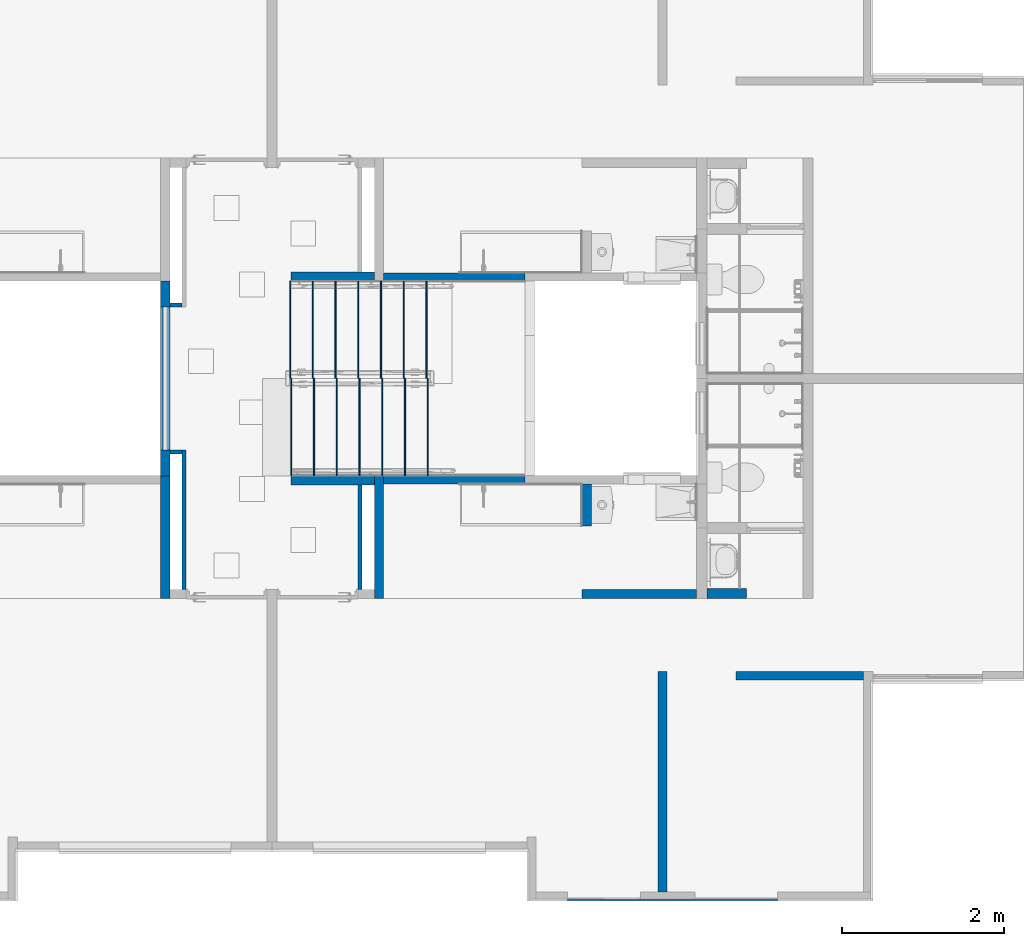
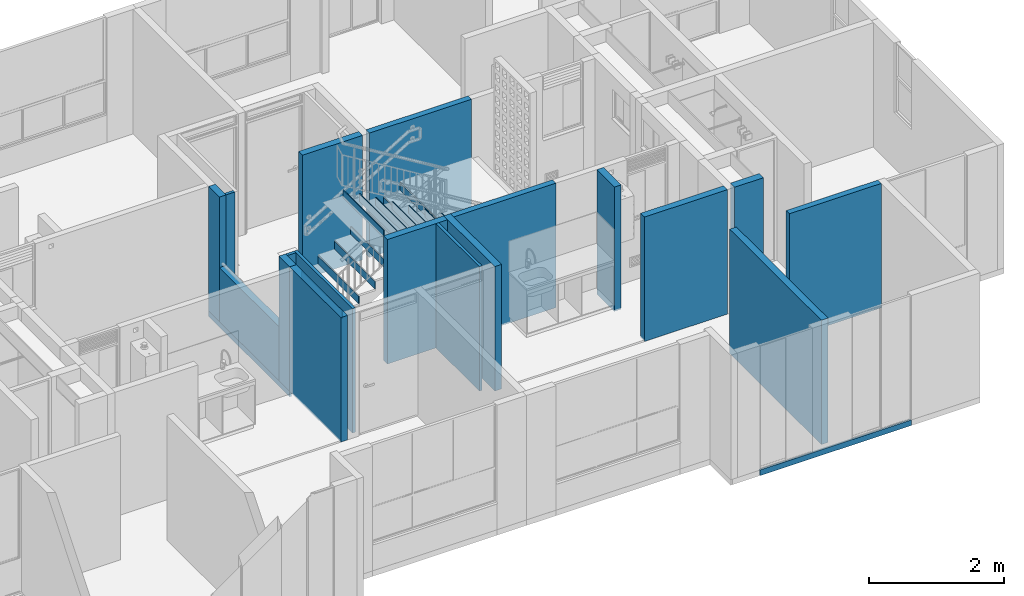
# One storey, part 13 of 48: 34 walls.
"""IFC4 building model written with IfcOpenShell, lengths in metres."""

from ifc_helpers import new_model, entity, si_unit, converted_unit, derived_unit, direction, frame, origin, place, context, subcontext, project, spatial, indexed_curve, outline, extrude, material, constituent, constituent_set, type_object, element, save


model = new_model("IFC4")

# Units and contexts
model_context = context("Model", 3, precision=1e-05, world=origin(), true_north=direction((6.123031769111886e-17, 1.0)))
body_context = subcontext(model_context, "Body", "Model", "MODEL_VIEW")
ifc_project = project(units=[si_unit("LENGTHUNIT", "METRE"), si_unit("AREAUNIT", "SQUARE_METRE"), si_unit("VOLUMEUNIT", "CUBIC_METRE"), converted_unit("PLANEANGLEUNIT", "DEGREE", entity("IfcRatioMeasure", 0.017453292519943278), si_unit("PLANEANGLEUNIT", "RADIAN"), dimensions=[0, 0, 0, 0, 0, 0, 0]), si_unit("MASSUNIT", "GRAM", prefix="KILO"), derived_unit("MASSDENSITYUNIT", [(si_unit("MASSUNIT", "GRAM", prefix="KILO"), 1), (si_unit("LENGTHUNIT", "METRE"), -3)]), derived_unit("IONCONCENTRATIONUNIT", [(si_unit("MASSUNIT", "GRAM", prefix="KILO"), 1), (si_unit("LENGTHUNIT", "METRE"), -3)]), derived_unit("MOMENTOFINERTIAUNIT", [(si_unit("LENGTHUNIT", "METRE"), 4)]), si_unit("TIMEUNIT", "SECOND"), si_unit("FREQUENCYUNIT", "HERTZ"), si_unit("THERMODYNAMICTEMPERATUREUNIT", "DEGREE_CELSIUS"), derived_unit("THERMALTRANSMITTANCEUNIT", [(si_unit("MASSUNIT", "GRAM", prefix="KILO"), 1), (si_unit("THERMODYNAMICTEMPERATUREUNIT", "KELVIN"), -1), (si_unit("TIMEUNIT", "SECOND"), -3)]), derived_unit("THERMALCONDUCTANCEUNIT", [(si_unit("MASSUNIT", "GRAM", prefix="KILO"), 1), (si_unit("THERMODYNAMICTEMPERATUREUNIT", "KELVIN"), -1), (si_unit("TIMEUNIT", "SECOND"), -3), (si_unit("LENGTHUNIT", "METRE"), 1)]), derived_unit("VOLUMETRICFLOWRATEUNIT", [(si_unit("LENGTHUNIT", "METRE"), 3), (si_unit("TIMEUNIT", "SECOND"), -1)]), derived_unit("MASSFLOWRATEUNIT", [(si_unit("MASSUNIT", "GRAM", prefix="KILO"), 1), (si_unit("TIMEUNIT", "SECOND"), -1)]), derived_unit("ROTATIONALFREQUENCYUNIT", [(si_unit("TIMEUNIT", "SECOND"), -1)]), si_unit("ELECTRICCURRENTUNIT", "AMPERE"), si_unit("ELECTRICVOLTAGEUNIT", "VOLT"), si_unit("POWERUNIT", "WATT"), si_unit("FORCEUNIT", "NEWTON", prefix="KILO"), si_unit("ILLUMINANCEUNIT", "LUX"), si_unit("LUMINOUSFLUXUNIT", "LUMEN"), si_unit("LUMINOUSINTENSITYUNIT", "CANDELA"), derived_unit("USERDEFINED", [(si_unit("MASSUNIT", "GRAM", prefix="KILO"), -1), (si_unit("LENGTHUNIT", "METRE"), -2), (si_unit("TIMEUNIT", "SECOND"), 3), (si_unit("LUMINOUSFLUXUNIT", "LUMEN"), 1)]), derived_unit("USERDEFINED", [(si_unit("MASSUNIT", "GRAM", prefix="KILO"), 1), (si_unit("TIMEUNIT", "SECOND"), -3), (si_unit("LENGTHUNIT", "METRE"), 3), (si_unit("ELECTRICCURRENTUNIT", "AMPERE"), -2)]), derived_unit("SOUNDPOWERUNIT", [(si_unit("MASSUNIT", "GRAM", prefix="KILO"), 1), (si_unit("TIMEUNIT", "SECOND"), -3), (si_unit("LENGTHUNIT", "METRE"), 2)]), derived_unit("SOUNDPRESSUREUNIT", [(si_unit("MASSUNIT", "GRAM", prefix="KILO"), 1), (si_unit("LENGTHUNIT", "METRE"), -1), (si_unit("TIMEUNIT", "SECOND"), -2)]), derived_unit("LINEARVELOCITYUNIT", [(si_unit("LENGTHUNIT", "METRE"), 1), (si_unit("TIMEUNIT", "SECOND"), -1)]), si_unit("PRESSUREUNIT", "PASCAL"), derived_unit("USERDEFINED", [(si_unit("MASSUNIT", "GRAM", prefix="KILO"), 1), (si_unit("LENGTHUNIT", "METRE"), -2), (si_unit("TIMEUNIT", "SECOND"), -2)]), derived_unit("LINEARFORCEUNIT", [(si_unit("MASSUNIT", "GRAM", prefix="KILO"), 1), (si_unit("TIMEUNIT", "SECOND"), -2)]), derived_unit("PLANARFORCEUNIT", [(si_unit("MASSUNIT", "GRAM", prefix="KILO"), 1), (si_unit("LENGTHUNIT", "METRE"), -1), (si_unit("TIMEUNIT", "SECOND"), -2)]), derived_unit("SPECIFICHEATCAPACITYUNIT", [(si_unit("THERMODYNAMICTEMPERATUREUNIT", "KELVIN"), -1), (si_unit("LENGTHUNIT", "METRE"), 2), (si_unit("TIMEUNIT", "SECOND"), -2)]), derived_unit("HEATINGVALUEUNIT", [(si_unit("LENGTHUNIT", "METRE"), 2), (si_unit("TIMEUNIT", "SECOND"), -2)]), derived_unit("VAPORPERMEABILITYUNIT", [(si_unit("LENGTHUNIT", "METRE"), -1), (si_unit("TIMEUNIT", "SECOND"), 1)]), derived_unit("DYNAMICVISCOSITYUNIT", [(si_unit("MASSUNIT", "GRAM", prefix="KILO"), 1), (si_unit("TIMEUNIT", "SECOND"), -1), (si_unit("LENGTHUNIT", "METRE"), -1)]), derived_unit("THERMALEXPANSIONCOEFFICIENTUNIT", [(si_unit("THERMODYNAMICTEMPERATUREUNIT", "KELVIN"), -1)]), derived_unit("MODULUSOFELASTICITYUNIT", [(si_unit("MASSUNIT", "GRAM", prefix="KILO"), 1), (si_unit("LENGTHUNIT", "METRE"), -1), (si_unit("TIMEUNIT", "SECOND"), -2)]), derived_unit("ISOTHERMALMOISTURECAPACITYUNIT", [(si_unit("LENGTHUNIT", "METRE"), 3), (si_unit("MASSUNIT", "GRAM", prefix="KILO"), -1)]), derived_unit("MOISTUREDIFFUSIVITYUNIT", [(si_unit("TIMEUNIT", "SECOND"), -1), (si_unit("LENGTHUNIT", "METRE"), 2)])], contexts=[model_context])

# Site, building, storey
site_placement = place(None, origin())
site = spatial("IfcSite", under=ifc_project, at=site_placement, Name="Default", CompositionType="ELEMENT")
building_placement = place(site_placement, origin())
building = spatial("IfcBuilding", under=site, at=building_placement, CompositionType="ELEMENT")
storey_placement = place(building_placement, frame((0.0, 0.0, 7.050000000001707)))
storey = spatial("IfcBuildingStorey", under=building, at=storey_placement, Name="Nivel 4", CompositionType="ELEMENT", Elevation=7.050000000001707)

# Walls
ifc_material_1 = material(Name="Ladrillo claro (Aire)", Category="Materials")
wall_type_1 = type_object("IfcWallType", Name="Basic Wall:B2010 - 0.115m - Muro interior en mampostería - Ladrillo", PredefinedType="STANDARD")
wall_1_placement = place(storey_placement, frame((14.135000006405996, -12.75500003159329, 0.0), z_axis=(0.0, 0.0, 1.0), x_axis=(0.0, 1.0, 0.0)))
element("IfcWall", 1, at=wall_1_placement, inside=storey, type_object=wall_type_1, material=ifc_material_1, Name="Basic Wall:B2010 - 0.115m - Muro interior en mampostería - Ladrillo", ObjectType="Basic Wall:B2010 - 0.115m - Muro interior en mampostería - Ladrillo", PredefinedType="NOTDEFINED", context=body_context, shape_type="SweptSolid", body=[
    extrude(outline(indexed_curve([(2.715000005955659, 0.05750000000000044), (8.08167206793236e-17, 0.057499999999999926), (-8.08167206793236e-17, -0.057499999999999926), (2.715000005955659, -0.057499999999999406), (2.715000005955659, 0.05750000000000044)], self_intersect=False)), origin(), (0.0, 0.0, 1.0), 2.2499999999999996),
])
wall_2_placement = place(storey_placement, frame((14.557500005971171, -9.082499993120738, 0.0), z_axis=(0.0, 0.0, 1.0), x_axis=(-1.0, 0.0, 0.0)))
element("IfcWall", 2, at=wall_2_placement, inside=storey, type_object=wall_type_1, material=ifc_material_1, Name="Basic Wall:B2010 - 0.115m - Muro interior en mampostería - Ladrillo", ObjectType="Basic Wall:B2010 - 0.115m - Muro interior en mampostería - Ladrillo", PredefinedType="NOTDEFINED", context=body_context, shape_type="SweptSolid", body=[
    extrude(outline(indexed_curve([(1.4149999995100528, 0.05750000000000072), (-5.604877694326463e-16, 0.057499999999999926), (5.604877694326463e-16, -0.057499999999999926), (1.414999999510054, -0.05749999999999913), (1.4149999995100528, 0.05750000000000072)], self_intersect=False)), origin(), (0.0, 0.0, 1.0), 2.2499999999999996),
])
wall_3_placement = place(storey_placement, frame((10.639999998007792, -7.625000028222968, 0.0), z_axis=(0.0, 0.0, 1.0), x_axis=(0.0, -1.0, 0.0)))
element("IfcWall", 3, at=wall_3_placement, inside=storey, type_object=wall_type_1, material=ifc_material_1, Name="Basic Wall:B2010 - 0.115m - Muro interior en mampostería - Ladrillo", ObjectType="Basic Wall:B2010 - 0.115m - Muro interior en mampostería - Ladrillo", PredefinedType="NOTDEFINED", context=body_context, shape_type="SweptSolid", body=[
    extrude(outline(indexed_curve([(1.5150000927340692, 0.05750000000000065), (-2.7419363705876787e-16, 0.057499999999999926), (2.7419363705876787e-16, -0.057499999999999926), (1.5150000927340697, -0.0574999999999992), (1.5150000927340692, 0.05750000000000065)], self_intersect=False)), origin(), (0.0, 0.0, 1.0), 2.2499999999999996),
])
wall_4_placement = place(storey_placement, frame((8.00500000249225, -7.6250000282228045, 0.0), z_axis=(0.0, 0.0, 1.0), x_axis=(0.0, -1.0, 0.0)))
element("IfcWall", 4, at=wall_4_placement, inside=storey, type_object=wall_type_1, material=ifc_material_1, Name="Basic Wall:B2010 - 0.115m - Muro interior en mampostería - Ladrillo", ObjectType="Basic Wall:B2010 - 0.115m - Muro interior en mampostería - Ladrillo", PredefinedType="NOTDEFINED", context=body_context, shape_type="SweptSolid", body=[
    extrude(outline(indexed_curve([(1.5150000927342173, 0.05750000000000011), (-4.5913366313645e-16, 0.057499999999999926), (4.5913366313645e-16, -0.057499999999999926), (1.5150000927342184, -0.05749999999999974), (1.5150000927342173, 0.05750000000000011)], self_intersect=False)), origin(), (0.0, 0.0, 1.0), 2.250000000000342),
])
ifc_material_2 = material(Name="Concreto (Aire)", Category="Materials")
wall_type_2 = type_object("IfcWallType", Name="Basic Wall:B2010 - 0.10m - Muro interior en concreto", PredefinedType="STANDARD")
wall_5_placement = place(storey_placement, frame((16.612500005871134, -10.090000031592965, 0.0), z_axis=(0.0, 0.0, 1.0), x_axis=(-1.0, 0.0, 0.0)))
element("IfcWall", 5, at=wall_5_placement, inside=storey, type_object=wall_type_2, material=ifc_material_2, Name="Basic Wall:B2010 - 0.10m - Muro interior en concreto", ObjectType="Basic Wall:B2010 - 0.10m - Muro interior en concreto", PredefinedType="NOTDEFINED", context=body_context, shape_type="SweptSolid", body=[
    extrude(outline(indexed_curve([(1.5699999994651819, 0.04999999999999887), (7.775903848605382e-16, 0.04999999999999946), (-7.775903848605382e-16, -0.04999999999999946), (1.5699999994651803, -0.05000000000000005), (1.5699999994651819, 0.04999999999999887)], self_intersect=False)), origin(), (0.0, 0.0, 1.0), 2.2499999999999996),
])
ifc_material_3 = material(Name="Pañete", Category="Materials")
ifc_constituent_1 = constituent(ifc_material_3, Name="Pañete", Category="Materials")
ifc_constituent_2 = constituent(ifc_material_1, Name="Ladrillo claro (Aire)", Category="Materials")
ifc_constituent_set_1 = constituent_set(constituents=[ifc_constituent_1, ifc_constituent_2], Name="Basic Wall:B2010 - 0.115m - Muro interior en mampostería - Ladrillo + Pañete")
wall_type_3 = type_object("IfcWallType", Name="Basic Wall:B2010 - 0.115m - Muro interior en mampostería - Ladrillo + Pañete", PredefinedType="STANDARD", material=ifc_constituent_set_1)
wall_6_placement = place(storey_placement, frame((15.172500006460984, -9.07749999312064, 0.0), z_axis=(0.0, 0.0, 1.0), x_axis=(-1.0, 0.0, 0.0)))
element("IfcWall", 6, at=wall_6_placement, inside=storey, type_object=wall_type_3, material=ifc_constituent_set_1, Name="Basic Wall:B2010 - 0.115m - Muro interior en mampostería - Ladrillo + Pañete", ObjectType="Basic Wall:B2010 - 0.115m - Muro interior en mampostería - Ladrillo + Pañete", PredefinedType="NOTDEFINED", context=body_context, shape_type="SweptSolid", body=[
    extrude(outline(indexed_curve([(-0.005000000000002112, -0.24500000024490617), (0.0049999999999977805, -0.24500000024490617), (0.005000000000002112, 0.24500000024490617), (-0.0049999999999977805, 0.24500000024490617), (-0.005000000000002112, -0.24500000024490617)], self_intersect=False)), frame((0.24500000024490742, -0.057499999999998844, 0.0), z_axis=(0.0, 0.0, 1.0), x_axis=(0.0, 1.0, 0.0)), (0.0, 0.0, 1.0), 2.2500000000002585),
    extrude(outline(indexed_curve([(-0.05749999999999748, -0.24500000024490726), (0.05750000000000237, -0.24500000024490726), (0.05749999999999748, 0.2450000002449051), (-0.05750000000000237, 0.24500000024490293), (-0.05749999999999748, -0.24500000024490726)], self_intersect=False)), frame((0.245000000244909, 0.005000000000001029, 0.0), z_axis=(0.0, 0.0, 1.0), x_axis=(0.0, -1.0, 0.0)), (0.0, 0.0, 1.0), 2.2500000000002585),
])
ifc_material_4 = material(Name="LADRILLO CLARO", Category="Materials")
wall_type_4 = type_object("IfcWallType", Name="Basic Wall:B2010 - 0.115m - MI mampostería no estructural - Ladrillo", PredefinedType="STANDARD")
wall_7_placement = place(storey_placement, frame((8.005000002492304, -5.545000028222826, 0.0), z_axis=(0.0, 0.0, 1.0), x_axis=(0.0, -1.0, 0.0)))
element("IfcWall", 7, at=wall_7_placement, inside=storey, type_object=wall_type_4, material=ifc_material_4, Name="Basic Wall:B2010 - 0.115m - MI mampostería no estructural - Ladrillo", ObjectType="Basic Wall:B2010 - 0.115m - MI mampostería no estructural - Ladrillo", PredefinedType="NOTDEFINED", context=body_context, shape_type="SweptSolid", body=[
    extrude(outline(indexed_curve([(1.7599999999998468, 0.05750000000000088), (-1.0186480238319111e-16, 0.057499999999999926), (1.0186480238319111e-16, -0.057499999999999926), (1.7599999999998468, -0.05749999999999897), (1.7599999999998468, 0.05750000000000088)], self_intersect=False)), origin(), (0.0, 0.0, 1.0), 0.9749999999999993),
])
wall_8_placement = place(storey_placement, frame((13.200000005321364, -8.245000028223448, 0.0), z_axis=(0.0, 0.0, 1.0), x_axis=(0.0, 1.0, 0.0)))
element("IfcWall", 8, at=wall_8_placement, inside=storey, type_object=wall_type_4, material=ifc_material_4, Name="Basic Wall:B2010 - 0.115m - MI mampostería no estructural - Ladrillo", ObjectType="Basic Wall:B2010 - 0.115m - MI mampostería no estructural - Ladrillo", PredefinedType="NOTDEFINED", context=body_context, shape_type="SweptSolid", body=[
    extrude(outline(indexed_curve([(0.5195000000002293, 0.057499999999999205), (-1.6027407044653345e-16, 0.057499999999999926), (1.6027407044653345e-16, -0.057499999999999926), (0.5195000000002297, -0.05750000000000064), (0.5195000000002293, 0.057499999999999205)], self_intersect=False)), origin(), (0.0, 0.0, 1.0), 2.2500000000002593),
])
wall_9_placement = place(storey_placement, frame((8.00500000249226, -5.545000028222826, 0.0), z_axis=(0.0, 0.0, 1.0), x_axis=(0.0, 1.0, 0.0)))
element("IfcWall", 9, at=wall_9_placement, inside=storey, type_object=wall_type_4, material=ifc_material_4, Name="Basic Wall:B2010 - 0.115m - MI mampostería no estructural - Ladrillo", ObjectType="Basic Wall:B2010 - 0.115m - MI mampostería no estructural - Ladrillo", PredefinedType="NOTDEFINED", context=body_context, shape_type="SweptSolid", body=[
    extrude(outline(indexed_curve([(0.3200000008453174, 0.05750000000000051), (9.033989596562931e-17, 0.057499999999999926), (-9.033989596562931e-17, -0.057499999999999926), (0.3200000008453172, -0.057499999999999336), (0.3200000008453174, 0.05750000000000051)], self_intersect=False)), origin(), (0.0, 0.0, 1.0), 2.250000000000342),
])
wall_10_placement = place(storey_placement, frame((8.005000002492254, -7.305000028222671, 0.0), z_axis=(0.0, 0.0, 1.0), x_axis=(0.0, -1.0, 0.0)))
element("IfcWall", 10, at=wall_10_placement, inside=storey, type_object=wall_type_4, material=ifc_material_4, Name="Basic Wall:B2010 - 0.115m - MI mampostería no estructural - Ladrillo", ObjectType="Basic Wall:B2010 - 0.115m - MI mampostería no estructural - Ladrillo", PredefinedType="NOTDEFINED", context=body_context, shape_type="SweptSolid", body=[
    extrude(outline(indexed_curve([(0.3200000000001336, 0.05749999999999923), (-4.5913366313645e-16, 0.057499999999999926), (4.5913366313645e-16, -0.057499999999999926), (0.32000000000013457, -0.05750000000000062), (0.3200000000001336, 0.05749999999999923)], self_intersect=False)), origin(), (0.0, 0.0, 1.0), 2.250000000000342),
])
ifc_material_5 = material(Name="0 muro divisorio", Category="Materials")
wall_type_5 = type_object("IfcWallType", Name="Basic Wall:B2010 - 0.05m - MI No estructural- Concreto", PredefinedType="STANDARD")
wall_11_placement = place(storey_placement, frame((8.212500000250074, -5.520000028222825, 0.0), z_axis=(0.0, 0.0, 1.0), x_axis=(-1.0, 0.0, 0.0)))
element("IfcWall", 11, at=wall_11_placement, inside=storey, type_object=wall_type_5, material=ifc_material_5, Name="Basic Wall:B2010 - 0.05m - MI No estructural- Concreto", ObjectType="Basic Wall:B2010 - 0.05m - MI No estructural- Concreto", PredefinedType="NOTDEFINED", context=body_context, shape_type="SweptSolid", body=[
    extrude(outline(indexed_curve([(0.14999999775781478, 0.02499999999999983), (-1.6892508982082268e-17, 0.02499999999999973), (1.6892508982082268e-17, -0.02499999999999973), (0.1499999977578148, -0.02499999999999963), (0.14999999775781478, 0.02499999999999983)], self_intersect=False)), origin(), (0.0, 0.0, 1.0), 2.2499999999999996),
])
wall_12_placement = place(storey_placement, frame((8.237500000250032, -7.305000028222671, 0.0), z_axis=(0.0, 0.0, 1.0), x_axis=(0.0, -1.0, 0.0)))
element("IfcWall", 12, at=wall_12_placement, inside=storey, type_object=wall_type_5, material=ifc_material_5, Name="Basic Wall:B2010 - 0.05m - MI No estructural- Concreto", ObjectType="Basic Wall:B2010 - 0.05m - MI No estructural- Concreto", PredefinedType="NOTDEFINED", context=body_context, shape_type="SweptSolid", body=[
    extrude(outline(indexed_curve([(1.719999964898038, 0.02499999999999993), (-3.4343744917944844e-17, 0.02499999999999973), (3.4343744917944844e-17, -0.02499999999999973), (1.719999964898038, -0.024999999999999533), (1.719999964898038, 0.02499999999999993)], self_intersect=False)), origin(), (0.0, 0.0, 1.0), 2.2499999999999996),
])
wall_13_placement = place(storey_placement, frame((8.212500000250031, -7.330000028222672, 0.0), z_axis=(0.0, 0.0, 1.0), x_axis=(-1.0, 0.0, 0.0)))
element("IfcWall", 13, at=wall_13_placement, inside=storey, type_object=wall_type_5, material=ifc_material_5, Name="Basic Wall:B2010 - 0.05m - MI No estructural- Concreto", ObjectType="Basic Wall:B2010 - 0.05m - MI No estructural- Concreto", PredefinedType="NOTDEFINED", context=body_context, shape_type="SweptSolid", body=[
    extrude(outline(indexed_curve([(0.14999999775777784, 0.02499999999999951), (-1.4345260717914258e-16, 0.02499999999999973), (1.4345260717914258e-16, -0.02499999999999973), (0.14999999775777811, -0.024999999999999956), (0.14999999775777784, 0.02499999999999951)], self_intersect=False)), origin(), (0.0, 0.0, 1.0), 2.2499999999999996),
])
wall_14_placement = place(storey_placement, frame((10.407500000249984, -7.740000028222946, 0.0), z_axis=(0.0, 0.0, 1.0), x_axis=(0.0, -1.0, 0.0)))
element("IfcWall", 14, at=wall_14_placement, inside=storey, type_object=wall_type_5, material=ifc_material_5, Name="Basic Wall:B2010 - 0.05m - MI No estructural- Concreto", ObjectType="Basic Wall:B2010 - 0.05m - MI No estructural- Concreto", PredefinedType="NOTDEFINED", context=body_context, shape_type="SweptSolid", body=[
    extrude(outline(indexed_curve([(1.2849999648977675, 0.025000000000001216), (3.434374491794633e-17, 0.025000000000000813), (-3.434374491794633e-17, -0.025000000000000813), (1.2849999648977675, -0.02500000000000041), (1.2849999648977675, 0.025000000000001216)], self_intersect=False)), origin(), (0.0, 0.0, 1.0), 2.2499999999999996),
])
wall_type_6 = type_object("IfcWallType", Name="Basic Wall:B2010 - 0.03m - ME enchape  no estructural - Ladrillo", PredefinedType="STANDARD")
wall_15_placement = place(storey_placement, frame((7.962500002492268, -5.225000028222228, -0.1000000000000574), z_axis=(0.0, 0.0, 1.0), x_axis=(0.0, -1.0, 0.0)))
element("IfcWall", 15, at=wall_15_placement, inside=storey, type_object=wall_type_6, material=ifc_material_4, Name="Basic Wall:B2010 - 0.03m - ME enchape  no estructural - Ladrillo", ObjectType="Basic Wall:B2010 - 0.03m - ME enchape  no estructural - Ladrillo", PredefinedType="NOTDEFINED", context=body_context, shape_type="SweptSolid", body=[
    extrude(outline(indexed_curve([(2.4000000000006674, 0.014999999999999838), (-2.7071678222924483e-17, 0.014999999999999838), (2.7071678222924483e-17, -0.014999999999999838), (2.4000000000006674, -0.014999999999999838), (2.4000000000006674, 0.014999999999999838)], self_intersect=False)), origin(), (0.0, 0.0, 1.0), 0.09999999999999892),
])
wall_16_placement = place(storey_placement, frame((12.962500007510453, -12.855000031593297, -0.10000000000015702)))
element("IfcWall", 16, at=wall_16_placement, inside=storey, type_object=wall_type_6, material=ifc_material_4, Name="Basic Wall:B2010 - 0.03m - ME enchape  no estructural - Ladrillo", ObjectType="Basic Wall:B2010 - 0.03m - ME enchape  no estructural - Ladrillo", PredefinedType="NOTDEFINED", context=body_context, shape_type="SweptSolid", body=[
    extrude(outline(indexed_curve([(2.5899999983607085, 0.015000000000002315), (-4.570130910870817e-17, 0.015000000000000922), (4.570130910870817e-17, -0.015000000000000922), (2.5899999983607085, -0.014999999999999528), (2.5899999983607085, 0.015000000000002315)], self_intersect=False)), origin(), (0.0, 0.0, 1.0), 0.09999999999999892),
])
ifc_material_6 = material(Name="Pintura blanca", Category="Materials")
ifc_constituent_3 = constituent(ifc_material_6, Name="Pintura blanca", Category="Materials")
ifc_constituent_4 = constituent(ifc_material_2, Name="Concreto (Aire)", Category="Materials")
ifc_constituent_set_2 = constituent_set(constituents=[ifc_constituent_3, ifc_constituent_4], Name="Basic Wall:B2010 - 0.10m - MI Concreto- Concreto+ Pintura")
wall_type_7 = type_object("IfcWallType", Name="Basic Wall:B2010 - 0.10m - MI Concreto- Concreto+ Pintura", PredefinedType="STANDARD", material=ifc_constituent_set_2)
wall_17_placement = place(storey_placement, frame((10.6974999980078, -5.175000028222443, 0.0)))
element("IfcWall", 17, at=wall_17_placement, inside=storey, type_object=wall_type_7, material=ifc_constituent_set_2, Name="Basic Wall:B2010 - 0.10m - MI Concreto- Concreto+ Pintura", ObjectType="Basic Wall:B2010 - 0.10m - MI Concreto- Concreto+ Pintura", PredefinedType="NOTDEFINED", context=body_context, shape_type="SweptSolid", body=[
    extrude(outline(indexed_curve([(-0.000500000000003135, -0.8725000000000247), (0.0004999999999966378, -0.8725000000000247), (0.0005000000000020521, 0.8725000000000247), (-0.0004999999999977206, 0.8725000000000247), (-0.000500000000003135, -0.8725000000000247)], self_intersect=False)), frame((0.8725000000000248, -0.04999999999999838, 0.0), z_axis=(0.0, 0.0, 1.0), x_axis=(0.0, 1.0, 0.0)), (0.0, 0.0, 1.0), 2.250000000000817),
    extrude(outline(indexed_curve([(-0.05000000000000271, -0.8725000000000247), (0.0499999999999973, -0.8725000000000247), (0.05000000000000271, 0.8725000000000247), (-0.0499999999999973, 0.8725000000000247), (-0.05000000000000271, -0.8725000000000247)], self_intersect=False)), frame((0.8725000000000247, 0.0005000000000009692, 0.0), z_axis=(0.0, 0.0, 1.0), x_axis=(0.0, -1.0, 0.0)), (0.0, 0.0, 1.0), 2.250000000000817),
])
wall_18_placement = place(storey_placement, frame((10.69749999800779, -7.675000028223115, 0.0)))
element("IfcWall", 18, at=wall_18_placement, inside=storey, type_object=wall_type_7, material=ifc_constituent_set_2, Name="Basic Wall:B2010 - 0.10m - MI Concreto- Concreto+ Pintura", ObjectType="Basic Wall:B2010 - 0.10m - MI Concreto- Concreto+ Pintura", PredefinedType="NOTDEFINED", context=body_context, shape_type="SweptSolid", body=[
    extrude(outline(indexed_curve([(-0.000500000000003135, -0.8725000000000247), (0.0004999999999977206, -0.8725000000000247), (0.000500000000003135, 0.8725000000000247), (-0.0004999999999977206, 0.8725000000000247), (-0.000500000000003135, -0.8725000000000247)], self_intersect=False)), frame((0.8725000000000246, 0.04999999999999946, 0.0), z_axis=(0.0, 0.0, 1.0), x_axis=(0.0, -1.0, 0.0)), (0.0, 0.0, 1.0), 2.250000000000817),
    extrude(outline(indexed_curve([(-0.05000000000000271, -0.8725000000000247), (0.049999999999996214, -0.8725000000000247), (0.050000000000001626, 0.8725000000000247), (-0.0499999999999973, 0.8725000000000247), (-0.05000000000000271, -0.8725000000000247)], self_intersect=False)), frame((0.8725000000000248, -0.0004999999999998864, 0.0), z_axis=(0.0, 0.0, 1.0), x_axis=(0.0, 1.0, 0.0)), (0.0, 0.0, 1.0), 2.250000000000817),
])
ifc_material_7 = material(Name="PISO GRES SAHARA 30X30", Category="Materials")
wall_type_8 = type_object("IfcWallType", Name="Basic Wall:B2010 - 0.015-Enchape- Gres", PredefinedType="STANDARD")
wall_19_placement = place(storey_placement, frame((9.545000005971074, -5.225000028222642, 0.029999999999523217), z_axis=(0.0, 0.0, 1.0), x_axis=(0.0, -1.0, 0.0)))
element("IfcWall", 19, at=wall_19_placement, inside=storey, type_object=wall_type_8, material=ifc_material_7, Name="Basic Wall:B2010 - 0.015-Enchape- Gres", ObjectType="Basic Wall:B2010 - 0.015-Enchape- Gres", PredefinedType="NOTDEFINED", context=body_context, shape_type="SweptSolid", body=[
    extrude(outline(indexed_curve([(1.1999999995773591, 0.007500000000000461), (-1.3535839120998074e-17, 0.007500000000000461), (1.3535839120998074e-17, -0.007500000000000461), (1.1999999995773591, -0.007500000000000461), (1.1999999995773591, 0.007500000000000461)], self_intersect=False)), origin(), (0.0, 0.0, 1.0), 0.137857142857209),
])
wall_20_placement = place(storey_placement, frame((9.825000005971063, -5.22500002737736, 0.19785714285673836), z_axis=(0.0, 0.0, 1.0), x_axis=(0.0, -1.0, 0.0)))
element("IfcWall", 20, at=wall_20_placement, inside=storey, type_object=wall_type_8, material=ifc_material_7, Name="Basic Wall:B2010 - 0.015-Enchape- Gres", ObjectType="Basic Wall:B2010 - 0.015-Enchape- Gres", PredefinedType="NOTDEFINED", context=body_context, shape_type="SweptSolid", body=[
    extrude(outline(indexed_curve([(1.200000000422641, 0.007500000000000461), (0.0, 0.007500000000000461), (0.0, -0.007500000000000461), (1.200000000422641, -0.007500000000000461), (1.200000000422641, 0.007500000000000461)], self_intersect=False)), origin(), (0.0, 0.0, 1.0), 0.13785714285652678),
])
wall_21_placement = place(storey_placement, frame((10.10500000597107, -5.22500002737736, 0.36571428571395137), z_axis=(0.0, 0.0, 1.0), x_axis=(0.0, -1.0, 0.0)))
element("IfcWall", 21, at=wall_21_placement, inside=storey, type_object=wall_type_8, material=ifc_material_7, Name="Basic Wall:B2010 - 0.015-Enchape- Gres", ObjectType="Basic Wall:B2010 - 0.015-Enchape- Gres", PredefinedType="NOTDEFINED", context=body_context, shape_type="SweptSolid", body=[
    extrude(outline(indexed_curve([(1.200000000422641, 0.007500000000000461), (0.0, 0.007500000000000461), (0.0, -0.007500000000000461), (1.200000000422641, -0.007500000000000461), (1.200000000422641, 0.007500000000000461)], self_intersect=False)), origin(), (0.0, 0.0, 1.0), 0.13785714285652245),
])
wall_22_placement = place(storey_placement, frame((10.385000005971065, -5.22500002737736, 0.5335714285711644), z_axis=(0.0, 0.0, 1.0), x_axis=(0.0, -1.0, 0.0)))
element("IfcWall", 22, at=wall_22_placement, inside=storey, type_object=wall_type_8, material=ifc_material_7, Name="Basic Wall:B2010 - 0.015-Enchape- Gres", ObjectType="Basic Wall:B2010 - 0.015-Enchape- Gres", PredefinedType="NOTDEFINED", context=body_context, shape_type="SweptSolid", body=[
    extrude(outline(indexed_curve([(1.200000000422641, 0.007500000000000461), (-2.7071678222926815e-17, 0.007500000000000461), (2.7071678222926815e-17, -0.007500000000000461), (1.200000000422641, -0.007500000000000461), (1.200000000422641, 0.007500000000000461)], self_intersect=False)), origin(), (0.0, 0.0, 1.0), 0.13785714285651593),
])
wall_23_placement = place(storey_placement, frame((10.665000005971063, -5.225000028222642, 0.7014285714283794), z_axis=(0.0, 0.0, 1.0), x_axis=(0.0, -1.0, 0.0)))
element("IfcWall", 23, at=wall_23_placement, inside=storey, type_object=wall_type_8, material=ifc_material_7, Name="Basic Wall:B2010 - 0.015-Enchape- Gres", ObjectType="Basic Wall:B2010 - 0.015-Enchape- Gres", PredefinedType="NOTDEFINED", context=body_context, shape_type="SweptSolid", body=[
    extrude(outline(indexed_curve([(1.1999999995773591, 0.007500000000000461), (-1.3535839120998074e-17, 0.007500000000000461), (1.3535839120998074e-17, -0.007500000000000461), (1.1999999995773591, -0.007500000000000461), (1.1999999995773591, 0.007500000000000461)], self_intersect=False)), origin(), (0.0, 0.0, 1.0), 0.13785714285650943),
])
wall_24_placement = place(storey_placement, frame((10.945000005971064, -5.22500002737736, 0.8692857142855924), z_axis=(0.0, 0.0, 1.0), x_axis=(0.0, -1.0, 0.0)))
element("IfcWall", 24, at=wall_24_placement, inside=storey, type_object=wall_type_8, material=ifc_material_7, Name="Basic Wall:B2010 - 0.015-Enchape- Gres", ObjectType="Basic Wall:B2010 - 0.015-Enchape- Gres", PredefinedType="NOTDEFINED", context=body_context, shape_type="SweptSolid", body=[
    extrude(outline(indexed_curve([(1.200000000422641, 0.007500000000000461), (0.0, 0.007500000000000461), (0.0, -0.007500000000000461), (1.200000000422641, -0.007500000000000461), (1.200000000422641, 0.007500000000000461)], self_intersect=False)), origin(), (0.0, 0.0, 1.0), 0.1378571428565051),
])
wall_25_placement = place(storey_placement, frame((11.225000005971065, -5.22500002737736, 1.0371428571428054), z_axis=(0.0, 0.0, 1.0), x_axis=(0.0, -1.0, 0.0)))
element("IfcWall", 25, at=wall_25_placement, inside=storey, type_object=wall_type_8, material=ifc_material_7, Name="Basic Wall:B2010 - 0.015-Enchape- Gres", ObjectType="Basic Wall:B2010 - 0.015-Enchape- Gres", PredefinedType="NOTDEFINED", context=body_context, shape_type="SweptSolid", body=[
    extrude(outline(indexed_curve([(1.200000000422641, 0.007500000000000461), (-2.7071678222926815e-17, 0.007500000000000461), (2.7071678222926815e-17, -0.007500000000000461), (1.200000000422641, -0.007500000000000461), (1.200000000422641, 0.007500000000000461)], self_intersect=False)), origin(), (0.0, 0.0, 1.0), 0.13785714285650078),
])
wall_26_placement = place(storey_placement, frame((11.240000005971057, -6.425000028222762, 1.2050000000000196), z_axis=(0.0, 0.0, 1.0), x_axis=(0.0, -1.0, 0.0)))
element("IfcWall", 26, at=wall_26_placement, inside=storey, type_object=wall_type_8, material=ifc_material_7, Name="Basic Wall:B2010 - 0.015-Enchape- Gres", ObjectType="Basic Wall:B2010 - 0.015-Enchape- Gres", PredefinedType="NOTDEFINED", context=body_context, shape_type="SweptSolid", body=[
    extrude(outline(indexed_curve([(1.199999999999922, 0.007500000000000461), (2.7071678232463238e-17, 0.007500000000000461), (-2.7071678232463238e-17, -0.007500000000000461), (1.199999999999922, -0.007500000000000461), (1.199999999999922, 0.007500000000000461)], self_intersect=False)), origin(), (0.0, 0.0, 1.0), 0.13785714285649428),
])
wall_27_placement = place(storey_placement, frame((10.960000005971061, -6.425000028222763, 1.3728571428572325), z_axis=(0.0, 0.0, 1.0), x_axis=(0.0, -1.0, 0.0)))
element("IfcWall", 27, at=wall_27_placement, inside=storey, type_object=wall_type_8, material=ifc_material_7, Name="Basic Wall:B2010 - 0.015-Enchape- Gres", ObjectType="Basic Wall:B2010 - 0.015-Enchape- Gres", PredefinedType="NOTDEFINED", context=body_context, shape_type="SweptSolid", body=[
    extrude(outline(indexed_curve([(1.1999999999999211, 0.007500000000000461), (2.7071678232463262e-17, 0.007500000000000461), (-2.7071678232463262e-17, -0.007500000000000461), (1.1999999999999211, -0.007500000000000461), (1.1999999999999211, 0.007500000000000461)], self_intersect=False)), origin(), (0.0, 0.0, 1.0), 0.13785714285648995),
])
wall_28_placement = place(storey_placement, frame((10.68000000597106, -6.425000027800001, 1.5407142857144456), z_axis=(0.0, 0.0, 1.0), x_axis=(0.0, -1.0, 0.0)))
element("IfcWall", 28, at=wall_28_placement, inside=storey, type_object=wall_type_8, material=ifc_material_7, Name="Basic Wall:B2010 - 0.015-Enchape- Gres", ObjectType="Basic Wall:B2010 - 0.015-Enchape- Gres", PredefinedType="NOTDEFINED", context=body_context, shape_type="SweptSolid", body=[
    extrude(outline(indexed_curve([(1.2000000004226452, 0.007500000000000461), (1.3535839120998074e-17, 0.007500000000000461), (-1.3535839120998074e-17, -0.007500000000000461), (1.2000000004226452, -0.007500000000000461), (1.2000000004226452, 0.007500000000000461)], self_intersect=False)), origin(), (0.0, 0.0, 1.0), 0.13785714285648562),
])
wall_29_placement = place(storey_placement, frame((10.400000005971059, -6.425000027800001, 1.7085714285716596), z_axis=(0.0, 0.0, 1.0), x_axis=(0.0, -1.0, 0.0)))
element("IfcWall", 29, at=wall_29_placement, inside=storey, type_object=wall_type_8, material=ifc_material_7, Name="Basic Wall:B2010 - 0.015-Enchape- Gres", ObjectType="Basic Wall:B2010 - 0.015-Enchape- Gres", PredefinedType="NOTDEFINED", context=body_context, shape_type="SweptSolid", body=[
    extrude(outline(indexed_curve([(1.2000000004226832, 0.007500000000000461), (2.7071678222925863e-17, 0.007500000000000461), (-2.7071678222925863e-17, -0.007500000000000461), (1.2000000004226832, -0.007500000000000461), (1.2000000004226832, 0.007500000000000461)], self_intersect=False)), origin(), (0.0, 0.0, 1.0), 0.13785714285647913),
])
wall_30_placement = place(storey_placement, frame((10.120000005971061, -6.425000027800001, 1.8764285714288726), z_axis=(0.0, 0.0, 1.0), x_axis=(0.0, -1.0, 0.0)))
element("IfcWall", 30, at=wall_30_placement, inside=storey, type_object=wall_type_8, material=ifc_material_7, Name="Basic Wall:B2010 - 0.015-Enchape- Gres", ObjectType="Basic Wall:B2010 - 0.015-Enchape- Gres", PredefinedType="NOTDEFINED", context=body_context, shape_type="SweptSolid", body=[
    extrude(outline(indexed_curve([(1.2000000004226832, 0.007500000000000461), (2.7071678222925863e-17, 0.007500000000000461), (-2.7071678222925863e-17, -0.007500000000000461), (1.2000000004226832, -0.007500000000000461), (1.2000000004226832, 0.007500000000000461)], self_intersect=False)), origin(), (0.0, 0.0, 1.0), 0.1378571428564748),
])
wall_31_placement = place(storey_placement, frame((9.840000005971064, -6.425000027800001, 2.0442857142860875), z_axis=(0.0, 0.0, 1.0), x_axis=(0.0, -1.0, 0.0)))
element("IfcWall", 31, at=wall_31_placement, inside=storey, type_object=wall_type_8, material=ifc_material_7, Name="Basic Wall:B2010 - 0.015-Enchape- Gres", ObjectType="Basic Wall:B2010 - 0.015-Enchape- Gres", PredefinedType="NOTDEFINED", context=body_context, shape_type="SweptSolid", body=[
    extrude(outline(indexed_curve([(1.2000000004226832, 0.007500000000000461), (2.7071678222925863e-17, 0.007500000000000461), (-2.7071678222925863e-17, -0.007500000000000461), (1.2000000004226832, -0.007500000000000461), (1.2000000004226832, 0.007500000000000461)], self_intersect=False)), origin(), (0.0, 0.0, 1.0), 0.1378571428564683),
])
wall_32_placement = place(storey_placement, frame((9.560000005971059, -6.425000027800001, 2.212142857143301), z_axis=(0.0, 0.0, 1.0), x_axis=(0.0, -1.0, 0.0)))
element("IfcWall", 32, at=wall_32_placement, inside=storey, type_object=wall_type_8, material=ifc_material_7, Name="Basic Wall:B2010 - 0.015-Enchape- Gres", ObjectType="Basic Wall:B2010 - 0.015-Enchape- Gres", PredefinedType="NOTDEFINED", context=body_context, shape_type="SweptSolid", body=[
    extrude(outline(indexed_curve([(1.2000000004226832, 0.007500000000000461), (2.7071678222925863e-17, 0.007500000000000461), (-2.7071678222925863e-17, -0.007500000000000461), (1.2000000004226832, -0.007500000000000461), (1.2000000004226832, 0.007500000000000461)], self_intersect=False)), origin(), (0.0, 0.0, 1.0), 0.13785714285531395),
])
wall_type_9 = type_object("IfcWallType", Name="Basic Wall:B2010 - 0.115m - MI mampostería no estructural - Ladrillo 2", PredefinedType="STANDARD")
wall_33_placement = place(storey_placement, frame((9.552500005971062, -5.1675000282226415, 0.0)))
element("IfcWall", 33, at=wall_33_placement, inside=storey, type_object=wall_type_9, material=ifc_material_4, Name="Basic Wall:B2010 - 0.115m - MI mampostería no estructural - Ladrillo 2", ObjectType="Basic Wall:B2010 - 0.115m - MI mampostería no estructural - Ladrillo 2", PredefinedType="NOTDEFINED", context=body_context, shape_type="SweptSolid", body=[
    extrude(outline(indexed_curve([(1.0299999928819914, 0.057499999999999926), (0.0, 0.057499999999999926), (0.0, -0.057499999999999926), (1.0299999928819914, -0.057499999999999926), (1.0299999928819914, 0.057499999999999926)], self_intersect=False)), origin(), (0.0, 0.0, 1.0), 2.2500000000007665),
])
wall_34_placement = place(storey_placement, frame((9.552500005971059, -7.682500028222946, 0.0)))
element("IfcWall", 34, at=wall_34_placement, inside=storey, type_object=wall_type_9, material=ifc_material_4, Name="Basic Wall:B2010 - 0.115m - MI mampostería no estructural - Ladrillo 2", ObjectType="Basic Wall:B2010 - 0.115m - MI mampostería no estructural - Ladrillo 2", PredefinedType="NOTDEFINED", context=body_context, shape_type="SweptSolid", body=[
    extrude(outline(indexed_curve([(1.0299999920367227, 0.057499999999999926), (0.0, 0.057499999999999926), (0.0, -0.057499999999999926), (1.0299999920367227, -0.057499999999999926), (1.0299999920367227, 0.057499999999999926)], self_intersect=False)), origin(), (0.0, 0.0, 1.0), 2.2500000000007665),
])

save(model, "model.ifc")
